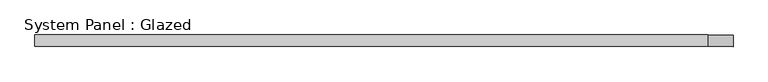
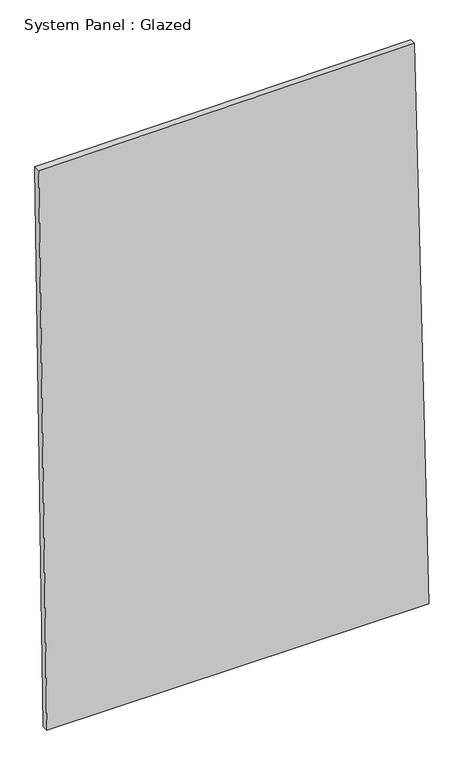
"""IFC4 building model written with IfcOpenShell, lengths in millimetres: plate geometry, System Panel : Glazed."""

from ifc_helpers import new_model, si_unit, frame, origin, place, context, project, spatial, polyline, outline, extrude, source, transform, mapped, element, save


def system_panel_glazed_75138732(model_context):
    return source(origin(), model_context, "Body", "SweptSolid", [
        extrude(outline(polyline([(0.0, -722.7601464), (0.0, 754.4510487), (2307.8889286, 699.1837075), (2297.4910399, -754.4510487), (0.0, -722.7601464)])), frame((0.0, -49.5, 0.0), z_axis=(0.0, 1.0, 0.0), x_axis=(0.0, 0.0, 1.0)), (0.0, 0.0, 1.0), 25.0),
    ])


if __name__ == "__main__":
    model = new_model("IFC4")
    model_context = context("Model", 3, world=origin())
    ifc_project = project(units=[si_unit("LENGTHUNIT", "METRE", prefix="MILLI")], contexts=[model_context])
    site = spatial("IfcSite", under=ifc_project)
    building = spatial("IfcBuilding", under=site)
    placement = place(None, origin())
    system_panel_glazed_shape = system_panel_glazed_75138732(model_context)
    element("IfcPlate", 1, ObjectType="System Panel : Glazed", at=placement, inside=building, context=model_context, shape_type="MappedRepresentation", body=[
        mapped(system_panel_glazed_shape, transform((0.0, 0.0, 0.0), x_axis=(1.0, 0.0, 0.0), y_axis=(0.0, 1.0, 0.0), z_axis=(0.0, 0.0, 1.0))),
    ])
    save(model, "model.ifc")
